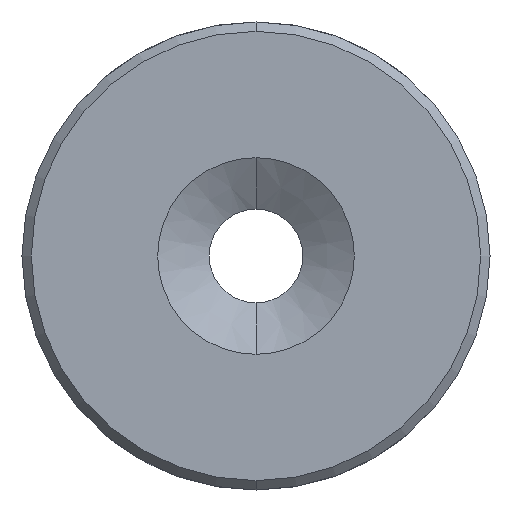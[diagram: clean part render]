
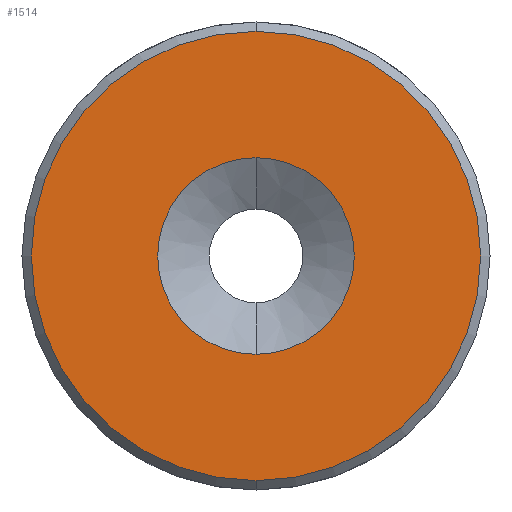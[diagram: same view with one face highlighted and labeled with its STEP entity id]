
A CAD part, front view. The second image highlights one B-rep face of the part: STEP entity #1514.
In plain terms, the highlighted planar face has unit normal (0, -1, 0).
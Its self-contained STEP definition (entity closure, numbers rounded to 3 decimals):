
#32 = VERTEX_POINT ( 'NONE', #1150 ) ;
#44 = ORIENTED_EDGE ( 'NONE', *, *, #2089, .T. ) ;
#110 = FACE_OUTER_BOUND ( 'NONE', #2668, .T. ) ;
#173 = CARTESIAN_POINT ( 'NONE',  ( 0., 0., 2.1 ) ) ;
#190 = FACE_BOUND ( 'NONE', #2354, .T. ) ;
#308 = AXIS2_PLACEMENT_3D ( 'NONE', #1113, #1401, #1496 ) ;
#334 = VERTEX_POINT ( 'NONE', #1066 ) ;
#598 = AXIS2_PLACEMENT_3D ( 'NONE', #2151, #776, #2373 ) ;
#621 = AXIS2_PLACEMENT_3D ( 'NONE', #1698, #1704, #1774 ) ;
#650 = CIRCLE ( 'NONE', #621, 4.8 ) ;
#776 = DIRECTION ( 'NONE',  ( 0., -1., 0. ) ) ;
#1066 = CARTESIAN_POINT ( 'NONE',  ( 0., 0., 4.8 ) ) ;
#1083 = CARTESIAN_POINT ( 'NONE',  ( 0., 0., 0. ) ) ;
#1113 = CARTESIAN_POINT ( 'NONE',  ( 0., 0., 0. ) ) ;
#1127 = EDGE_CURVE ( 'NONE', #1396, #1588, #2859, .T. ) ;
#1150 = CARTESIAN_POINT ( 'NONE',  ( 0., 0., -4.8 ) ) ;
#1235 = ORIENTED_EDGE ( 'NONE', *, *, #1590, .T. ) ;
#1396 = VERTEX_POINT ( 'NONE', #173 ) ;
#1401 = DIRECTION ( 'NONE',  ( 0., 1., 0. ) ) ;
#1476 = PLANE ( 'NONE',  #308 ) ;
#1478 = AXIS2_PLACEMENT_3D ( 'NONE', #1083, #2526, #2324 ) ;
#1493 = CIRCLE ( 'NONE', #598, 2.1 ) ;
#1496 = DIRECTION ( 'NONE',  ( 0., 0., 1. ) ) ;
#1513 = DIRECTION ( 'NONE',  ( 0., -1., 0. ) ) ;
#1514 = ADVANCED_FACE ( 'NONE', ( #110, #190 ), #1476, .F. ) ;
#1536 = ORIENTED_EDGE ( 'NONE', *, *, #2577, .F. ) ;
#1588 = VERTEX_POINT ( 'NONE', #2039 ) ;
#1590 = EDGE_CURVE ( 'NONE', #32, #334, #650, .T. ) ;
#1642 = CARTESIAN_POINT ( 'NONE',  ( 0., 0., 0. ) ) ;
#1698 = CARTESIAN_POINT ( 'NONE',  ( 0., 0., 0. ) ) ;
#1704 = DIRECTION ( 'NONE',  ( 0., -1., 0. ) ) ;
#1774 = DIRECTION ( 'NONE',  ( 0., 0., 1. ) ) ;
#2039 = CARTESIAN_POINT ( 'NONE',  ( 0., 0., -2.1 ) ) ;
#2089 = EDGE_CURVE ( 'NONE', #334, #32, #2114, .T. ) ;
#2114 = CIRCLE ( 'NONE', #1478, 4.8 ) ;
#2151 = CARTESIAN_POINT ( 'NONE',  ( 0., 0., 0. ) ) ;
#2294 = ORIENTED_EDGE ( 'NONE', *, *, #1127, .F. ) ;
#2324 = DIRECTION ( 'NONE',  ( 0., 0., 1. ) ) ;
#2354 = EDGE_LOOP ( 'NONE', ( #1536, #2294 ) ) ;
#2373 = DIRECTION ( 'NONE',  ( 0., 0., -1. ) ) ;
#2384 = DIRECTION ( 'NONE',  ( 0., 0., -1. ) ) ;
#2526 = DIRECTION ( 'NONE',  ( 0., -1., 0. ) ) ;
#2577 = EDGE_CURVE ( 'NONE', #1588, #1396, #1493, .T. ) ;
#2668 = EDGE_LOOP ( 'NONE', ( #44, #1235 ) ) ;
#2763 = AXIS2_PLACEMENT_3D ( 'NONE', #1642, #1513, #2384 ) ;
#2859 = CIRCLE ( 'NONE', #2763, 2.1 ) ;
